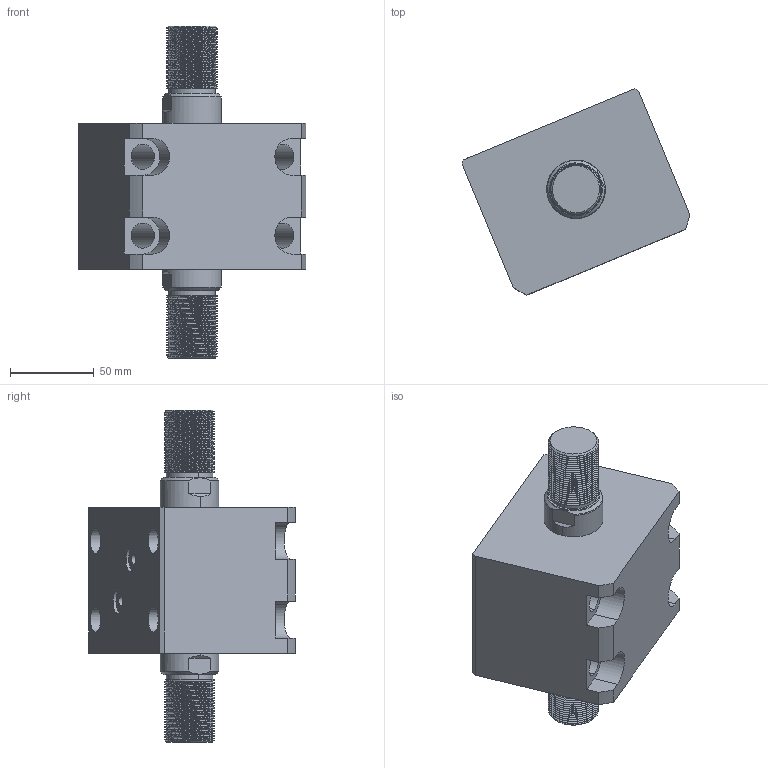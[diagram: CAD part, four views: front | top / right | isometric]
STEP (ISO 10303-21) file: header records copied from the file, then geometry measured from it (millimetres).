
FILE_DESCRIPTION (( 'STEP AP214' ), '1' );
FILE_NAME ('chtb-lwm63x5w_asm.STEP', '2018-05-22T01:24:03', ( 'Windows' ), ( 'Microsoft' ), 'SwSTEP 2.0', 'SolidWorks 2015', '' );
FILE_SCHEMA (( 'AUTOMOTIVE_DESIGN' ));
Length unit declared in the file: millimetre
Products named in the file (4): CHTB-SW63X5WHSG; CHTB-LWM63X5NBT; CHTB-63QG; chtb-lwm63x5w_asm
Assembly tree (3 placements, depth 2):
  chtb-lwm63x5w_asm
    CHTB-63QG
    CHTB-LWM63X5NBT
    CHTB-SW63X5WHSG
Bounding box: 135.77 x 123.03 x 198 mm (x, y, z)
Volume: 872435.5 mm3; surface area: 137438 mm2
Topology: 3 solids, 3 shells, 285 faces, 836 edges, 565 vertices
Faces by surface type: cylinder 198, plane 47, bspline 16, cone 12, torus 12
Entity records: 27223 total; most frequent: CARTESIAN_POINT 20437, ORIENTED_EDGE 1664, DIRECTION 1115, EDGE_CURVE 832, VERTEX_POINT 565, AXIS2_PLACEMENT_3D 416, EDGE_LOOP 313, FACE_OUTER_BOUND 285
